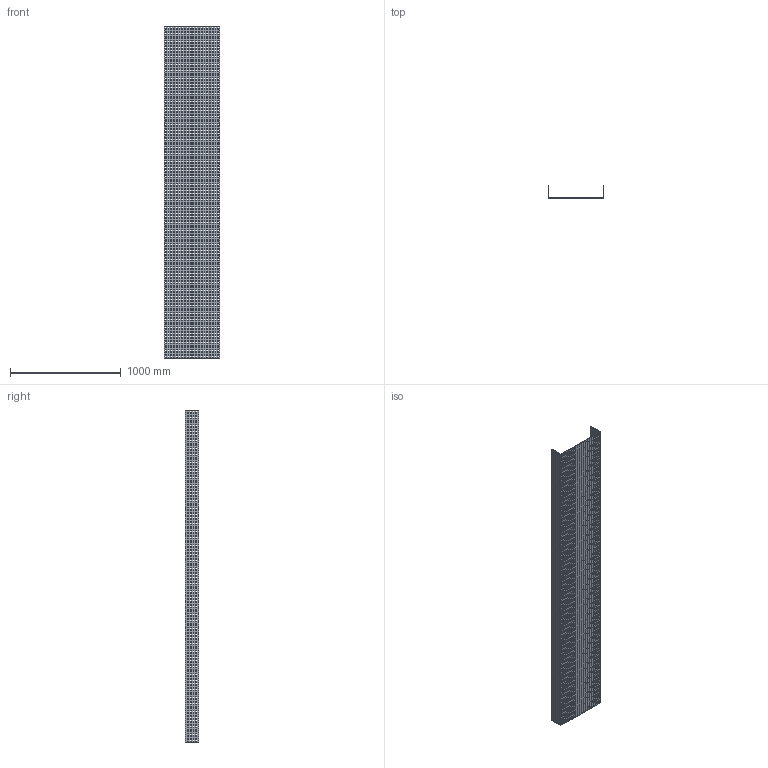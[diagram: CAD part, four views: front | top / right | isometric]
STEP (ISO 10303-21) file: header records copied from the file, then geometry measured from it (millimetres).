
FILE_DESCRIPTION (( 'STEP AP214' ), '1' );
FILE_NAME ('01B3J500.step', '2025-02-21T10:07:25', ( '' ), ( '' ), 'SwSTEP 2.0', 'SolidWorks 2023', '' );
FILE_SCHEMA (( 'AUTOMOTIVE_DESIGN' ));
Products named in the file (1): 01B3J500
Bounding box: 504 x 117.5 x 3000 mm (x, y, z)
Volume: 6451200 mm3; surface area: 4164108 mm2
Topology: 1 solids, 1 shells, 8074 faces, 24216 edges, 16144 vertices
Faces by surface type: plane 8074
Entity records: 274487 total; most frequent: CARTESIAN_POINT 48435, ORIENTED_EDGE 48432, DIRECTION 40366, LINE 24216, EDGE_CURVE 24216, VECTOR 24216, VERTEX_POINT 16144, EDGE_LOOP 12106
